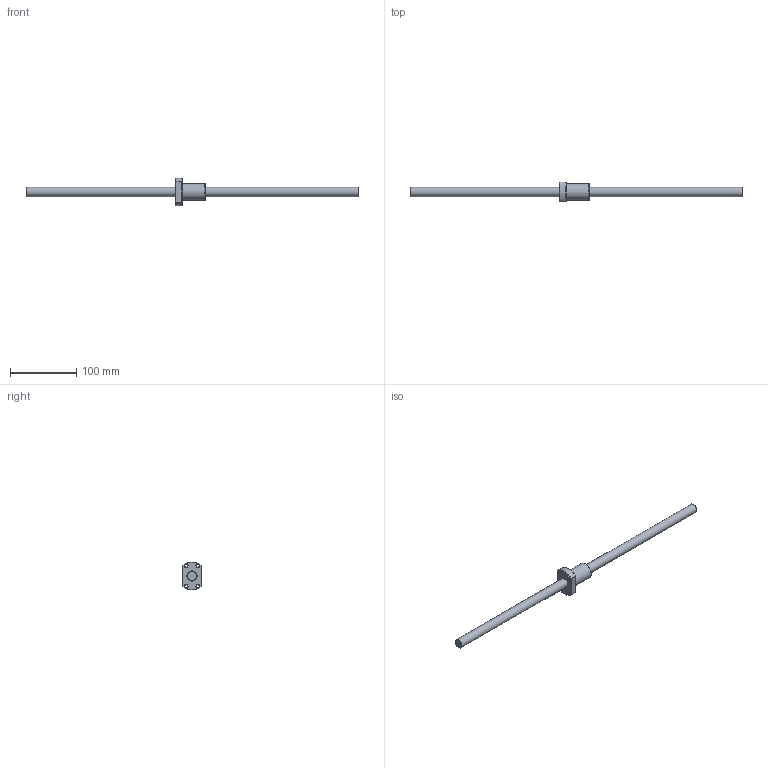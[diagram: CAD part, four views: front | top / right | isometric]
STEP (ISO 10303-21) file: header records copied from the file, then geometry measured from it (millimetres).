
FILE_DESCRIPTION (( 'STEP AP203' ), '1' );
FILE_NAME ('SFK01404.step', '2024-05-30T08:11:11', ( '' ), ( '' ), 'SwSTEP 2.0', 'SolidWorks 2022', '' );
FILE_SCHEMA (( 'CONFIG_CONTROL_DESIGN' ));
Length unit declared in the file: millimetre
Products named in the file (1): SFK01404
Bounding box: 500 x 29 x 41.85 mm (x, y, z)
Volume: 96217.5 mm3; surface area: 30653.1 mm2
Topology: 2 solids, 2 shells, 33 faces, 78 edges, 50 vertices
Faces by surface type: plane 11, cylinder 9, cone 8, torus 5
Full cylindrical faces by diameter (mm): 4.5 x4, 14 x1, 15.4 x1, 25 x1
Entity records: 943 total; most frequent: CARTESIAN_POINT 212, DIRECTION 142, ORIENTED_EDGE 102, AXIS2_PLACEMENT_3D 65, EDGE_LOOP 60, EDGE_CURVE 51, FACE_OUTER_BOUND 41, VERTEX_POINT 39
